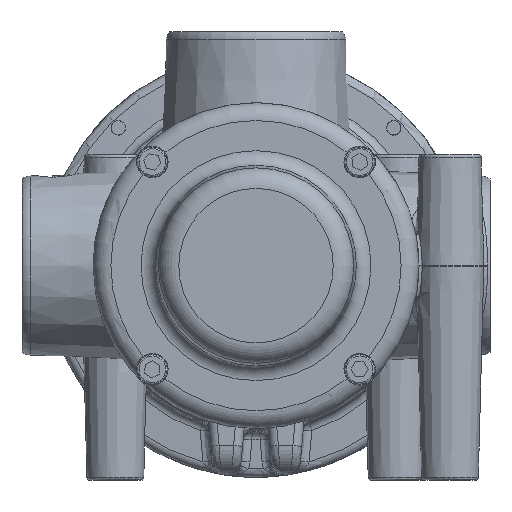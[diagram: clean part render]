
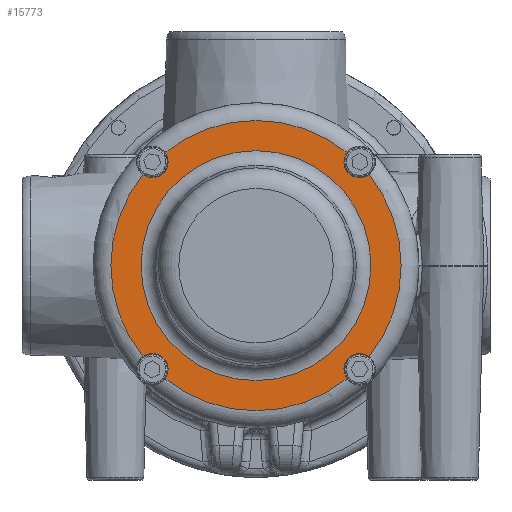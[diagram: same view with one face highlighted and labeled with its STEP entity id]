
A CAD part, front view. The second image highlights one B-rep face of the part: STEP entity #15773.
In plain terms, the highlighted planar face has unit normal (0, -1, 0).
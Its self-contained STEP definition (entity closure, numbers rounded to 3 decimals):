
#4014=FACE_BOUND('',#6061,.T.);
#4921=FACE_OUTER_BOUND('',#6060,.T.);
#6060=EDGE_LOOP('',(#14381,#14382,#14383,#14384,#14385,#14386,#14387,#14388));
#6061=EDGE_LOOP('',(#14389));
#6214=CIRCLE('',#16084,5.308);
#6215=CIRCLE('',#16086,5.308);
#6216=CIRCLE('',#16088,5.308);
#6217=CIRCLE('',#16090,5.308);
#6219=CIRCLE('',#16093,49.);
#6220=CIRCLE('',#16094,49.);
#6221=CIRCLE('',#16095,49.);
#6222=CIRCLE('',#16096,49.);
#6226=CIRCLE('',#16103,38.818);
#6987=VERTEX_POINT('',#22226);
#6988=VERTEX_POINT('',#22227);
#6989=VERTEX_POINT('',#22258);
#6990=VERTEX_POINT('',#22259);
#6991=VERTEX_POINT('',#22292);
#6992=VERTEX_POINT('',#22293);
#6993=VERTEX_POINT('',#22326);
#6994=VERTEX_POINT('',#22327);
#6999=VERTEX_POINT('',#22373);
#8425=EDGE_CURVE('',#6987,#6988,#6214,.T.);
#8427=EDGE_CURVE('',#6989,#6990,#6215,.T.);
#8429=EDGE_CURVE('',#6991,#6992,#6216,.T.);
#8431=EDGE_CURVE('',#6993,#6994,#6217,.T.);
#8434=EDGE_CURVE('',#6987,#6994,#6219,.T.);
#8435=EDGE_CURVE('',#6993,#6992,#6220,.T.);
#8436=EDGE_CURVE('',#6991,#6990,#6221,.T.);
#8437=EDGE_CURVE('',#6989,#6988,#6222,.T.);
#8441=EDGE_CURVE('',#6999,#6999,#6226,.T.);
#14381=ORIENTED_EDGE('',*,*,#8429,.T.);
#14382=ORIENTED_EDGE('',*,*,#8435,.F.);
#14383=ORIENTED_EDGE('',*,*,#8431,.T.);
#14384=ORIENTED_EDGE('',*,*,#8434,.F.);
#14385=ORIENTED_EDGE('',*,*,#8425,.T.);
#14386=ORIENTED_EDGE('',*,*,#8437,.F.);
#14387=ORIENTED_EDGE('',*,*,#8427,.T.);
#14388=ORIENTED_EDGE('',*,*,#8436,.F.);
#14389=ORIENTED_EDGE('',*,*,#8441,.T.);
#14861=PLANE('',#17323);
#15773=ADVANCED_FACE('',(#4921,#4014),#14861,.T.);
#16084=AXIS2_PLACEMENT_3D('',#22228,#17913,#17914);
#16086=AXIS2_PLACEMENT_3D('',#22260,#17917,#17918);
#16088=AXIS2_PLACEMENT_3D('',#22294,#17921,#17922);
#16090=AXIS2_PLACEMENT_3D('',#22328,#17925,#17926);
#16093=AXIS2_PLACEMENT_3D('',#22360,#17931,#17932);
#16094=AXIS2_PLACEMENT_3D('',#22361,#17933,#17934);
#16095=AXIS2_PLACEMENT_3D('',#22362,#17935,#17936);
#16096=AXIS2_PLACEMENT_3D('',#22363,#17937,#17938);
#16103=AXIS2_PLACEMENT_3D('',#22374,#17951,#17952);
#17323=AXIS2_PLACEMENT_3D('',#35329,#21212,#21213);
#17913=DIRECTION('center_axis',(0.,1.,0.));
#17914=DIRECTION('ref_axis',(-1.,0.,0.));
#17917=DIRECTION('center_axis',(0.,1.,0.));
#17918=DIRECTION('ref_axis',(-1.,0.,0.));
#17921=DIRECTION('center_axis',(0.,1.,0.));
#17922=DIRECTION('ref_axis',(-1.,0.,0.));
#17925=DIRECTION('center_axis',(0.,1.,0.));
#17926=DIRECTION('ref_axis',(-1.,0.,0.));
#17931=DIRECTION('center_axis',(0.,1.,0.));
#17932=DIRECTION('ref_axis',(-1.,0.,0.));
#17933=DIRECTION('center_axis',(0.,1.,0.));
#17934=DIRECTION('ref_axis',(-1.,0.,0.));
#17935=DIRECTION('center_axis',(0.,1.,0.));
#17936=DIRECTION('ref_axis',(-1.,0.,0.));
#17937=DIRECTION('center_axis',(0.,1.,0.));
#17938=DIRECTION('ref_axis',(-1.,0.,0.));
#17951=DIRECTION('center_axis',(0.,1.,0.));
#17952=DIRECTION('ref_axis',(-1.,0.,0.));
#21212=DIRECTION('center_axis',(0.,-1.,0.));
#21213=DIRECTION('ref_axis',(0.,0.,
-1.));
#22226=CARTESIAN_POINT('',(38.161,-7.,30.736));
#22227=CARTESIAN_POINT('',(30.736,-7.,38.161));
#22228=CARTESIAN_POINT('Origin',(35.,-7.,35.));
#22258=CARTESIAN_POINT('',(-30.736,-7.,38.161));
#22259=CARTESIAN_POINT('',(-38.161,-7.,30.736));
#22260=CARTESIAN_POINT('Origin',(-35.,-7.,35.));
#22292=CARTESIAN_POINT('',(-38.161,-7.,-30.736));
#22293=CARTESIAN_POINT('',(-30.736,-7.,-38.161));
#22294=CARTESIAN_POINT('Origin',(-35.,-7.,-35.));
#22326=CARTESIAN_POINT('',(30.736,-7.,-38.161));
#22327=CARTESIAN_POINT('',(38.161,-7.,-30.736));
#22328=CARTESIAN_POINT('Origin',(35.,-7.,-35.));
#22360=CARTESIAN_POINT('Origin',(0.,-7.,
0.));
#22361=CARTESIAN_POINT('Origin',(0.,-7.,
0.));
#22362=CARTESIAN_POINT('Origin',(0.,-7.,
0.));
#22363=CARTESIAN_POINT('Origin',(0.,-7.,
0.));
#22373=CARTESIAN_POINT('',(-38.818,-7.,0.));
#22374=CARTESIAN_POINT('Origin',(0.,-7.,
0.));
#35329=CARTESIAN_POINT('Origin',(-43.909,-7.,0.));
